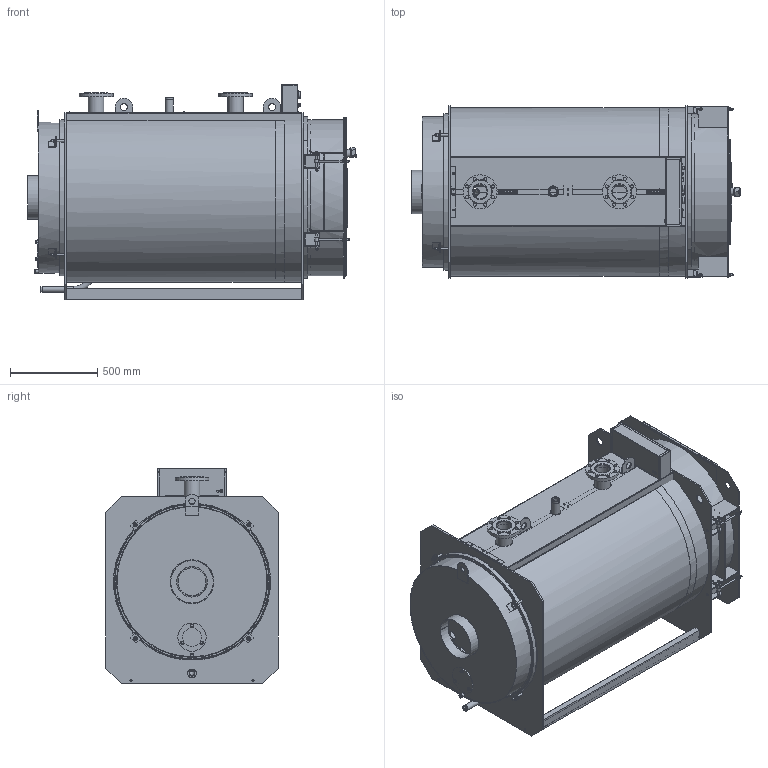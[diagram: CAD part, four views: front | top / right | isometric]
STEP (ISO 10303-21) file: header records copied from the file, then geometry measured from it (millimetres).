
FILE_DESCRIPTION(('STEP AP242'), '1');
FILE_NAME('TITAN Prom 4 (350-400 êÂò)', '', ('UNSPECIFIED'), ('UNSPECIFIED'), 'ASCON STEP Converter 1.6', 'ASCON Math Kernel', '');
FILE_SCHEMA(('AP242_MANAGED_MODEL_BASED_3D_ENGINEERING_MIM_LF { 1 0 10303 442 1 1 4 }'));
Length unit declared in the file: millimetre
Bounding box: 1887.29 x 990 x 1238.16 mm (x, y, z)
Volume: 137188998.3 mm3; surface area: 22800179 mm2
Topology: 36 solids, 36 shells, 3175 faces, 7987 edges, 5099 vertices
Faces by surface type: plane 1930, cylinder 910, cone 223, bspline 66, torus 31, extrusion 9, sphere 6
Full cylindrical faces by diameter (mm): 2 x4, 2.8 x27, 3 x1, 3.2 x4, 3.5 x8, 3.6 x4, 4 x12, 4.1 x2, 4.5 x12, 4.8 x1, 5 x17, 6 x5, 7 x2, 7.6 x1, 8 x3, 8.376 x2, 9 x2, 9.25 x4, 9.5 x10, 9.728 x1, 10 x31, 10.106 x3, 10.5 x1, 11 x13, 12 x19, 13 x9, 13.5 x4, 14 x8, 14.5 x1, 15 x3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
Entity records: 179300 total; most frequent: CARTESIAN_POINT 79965, ORIENTED_EDGE 14680, DIRECTION 14481, EDGE_CURVE 7340, AXIS2_PLACEMENT_3D 5139, VERTEX_POINT 5074, EDGE_LOOP 4478, VECTOR 4203
